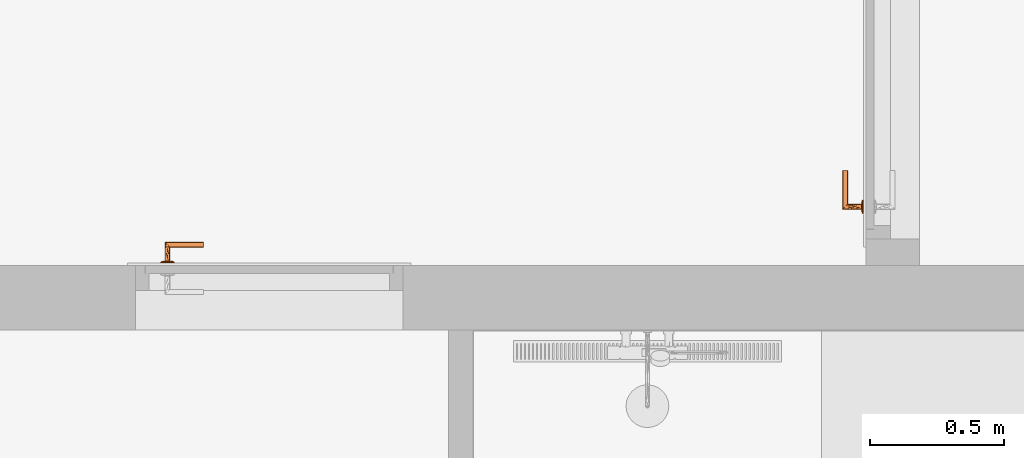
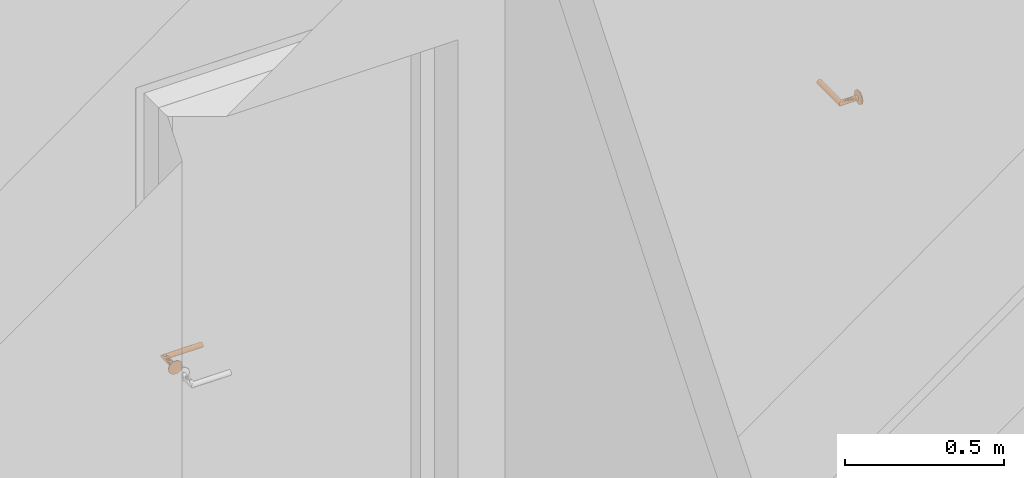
# One storey, part 43 of 68: 2 proxies.
"""IFC2X3 building model written with IfcOpenShell, lengths in millimetres."""

import ifcopenshell
import ifcopenshell.guid

model = None  # the IFC model being written
_history = None  # IfcOwnerHistory: only IFC2X3 demands one
_inside = {}  # id of a spatial element -> (the spatial element, [elements in it])
_under = {}  # id of a project, library or spatial element -> (it, [spatial elements below it])
_declared = {}  # id of a project -> (the project, [libraries it declares])
_typed = {}  # id of a type object -> (the type object, [elements of that type])
_made_of = {}  # id of a material, layer set ... -> (it, [elements and type objects made of it])


def new_model(schema):
    """Start an empty IFC model of exactly this schema.

    Asked for "IFC4X3", IfcOpenShell would pick the latest addendum, in which some entities
    have other attributes; the version numbers below select the first issue.
    IFC2X3 requires an IfcOwnerHistory on every rooted entity: one is made here for all.
    """
    global model, _history
    if schema == "IFC4X3":
        model = ifcopenshell.file(schema_version=(4, 3, 0, 0))
    else:
        model = ifcopenshell.file(schema=schema)
    _inside.clear()
    _under.clear()
    _declared.clear()
    _typed.clear()
    _made_of.clear()
    _history = None
    if model.schema == "IFC2X3":
        org = make("IfcOrganization", Name="unknown")
        user = make(
            "IfcPersonAndOrganization",
            ThePerson=make("IfcPerson", FamilyName="unknown"),
            TheOrganization=org,
        )
        app = make(
            "IfcApplication",
            ApplicationDeveloper=org,
            Version="unknown",
            ApplicationFullName="unknown",
            ApplicationIdentifier="unknown",
        )
        _history = make(
            "IfcOwnerHistory",
            OwningUser=user,
            OwningApplication=app,
            ChangeAction="ADDED",
            CreationDate=0,
        )
    return model


def make(cls, **values):
    """One entity of the class cls with the attributes given. An attribute that is None is left unset."""
    return model.create_entity(
        cls, **{name: value for name, value in values.items() if value is not None}
    )


def entity(cls, *values):
    """Any entity or typed value of the class cls, its attributes in the order of the schema. None: left unset."""
    e = model.create_entity(cls)
    for i, value in enumerate(values):
        if value is not None:
            e[i] = value
    return e


def rooted(cls, **values):
    """An entity with a GlobalId (a new one), such as an element, a storey or a relation."""
    return make(cls, GlobalId=ifcopenshell.guid.new(), OwnerHistory=_history, **values)


def si_unit(unit_type, name, prefix=None):
    """IfcSIUnit, for example si_unit("LENGTHUNIT", "METRE", prefix="MILLI")."""
    return make("IfcSIUnit", UnitType=unit_type, Prefix=prefix, Name=name)


def converted_unit(unit_type, name, factor, base, dimensions=None, offset=None):
    """IfcConversionBasedUnit, such as the inch: factor (a typed value) times the base unit."""
    return make(
        "IfcConversionBasedUnit"
        if offset is None
        else "IfcConversionBasedUnitWithOffset",
        ConversionOffset=offset,
        Dimensions=None
        if dimensions is None
        else entity("IfcDimensionalExponents", *dimensions),
        UnitType=unit_type,
        Name=name,
        ConversionFactor=make(
            "IfcMeasureWithUnit", ValueComponent=factor, UnitComponent=base
        ),
    )


def assignment(units):
    """IfcUnitAssignment: the units of a project."""
    return None if units is None else make("IfcUnitAssignment", Units=units)


def point(xyz):
    """IfcCartesianPoint."""
    return None if xyz is None else make("IfcCartesianPoint", Coordinates=xyz)


def direction(xyz):
    """IfcDirection."""
    return None if xyz is None else make("IfcDirection", DirectionRatios=xyz)


def frame(location, z_axis=None, x_axis=None):
    """IfcAxis2Placement3D, a coordinate frame: its origin and axes. An axis left out is left unset."""
    return make(
        "IfcAxis2Placement3D",
        Location=point(location),
        Axis=direction(z_axis),
        RefDirection=direction(x_axis),
    )


def origin():
    """The frame at (0, 0, 0) with its axes left unset."""
    return frame((0.0, 0.0, 0.0))


def place(relative_to, where):
    """IfcLocalPlacement: puts the frame where relative to a parent placement (None: the world)."""
    return make(
        "IfcLocalPlacement", PlacementRelTo=relative_to, RelativePlacement=where
    )


def context(
    kind, dimensions, precision=None, world=None, true_north=None, identifier=None
):
    """IfcGeometricRepresentationContext, for example the 3D "Model" context."""
    return make(
        "IfcGeometricRepresentationContext",
        ContextIdentifier=identifier,
        ContextType=kind,
        CoordinateSpaceDimension=dimensions,
        Precision=precision,
        WorldCoordinateSystem=world,
        TrueNorth=true_north,
    )


def subcontext(parent, identifier, kind, view, scale=None):
    """IfcGeometricRepresentationSubContext, for example "Body" below "Model"."""
    return make(
        "IfcGeometricRepresentationSubContext",
        ContextIdentifier=identifier,
        ContextType=kind,
        ParentContext=parent,
        TargetScale=scale,
        TargetView=view,
    )


def project(units=None, contexts=None):
    """IfcProject with its units and contexts."""
    return rooted(
        "IfcProject",
        Name="project",
        RepresentationContexts=contexts,
        UnitsInContext=assignment(units),
    )


def spatial(cls, under=None, at=None, **own):
    """A site, building, storey or space (cls), placed at a placement, below another one or the project."""
    s = rooted(cls, ObjectPlacement=at, **own)
    if under is not None:
        _under.setdefault(under.id(), (under, []))[1].append(s)
    return s


def faces_of(points, faces, orient=None, outer=None):
    """IfcFace entities. A face is a list of loops; a loop is a list of indices into points, from 0.

    orient and outer hold one flag for each loop. By default every Orientation is true, the
    first loop of a face is its IfcFaceOuterBound and the others are IfcFaceBound.
    """
    made = []
    for i, loops in enumerate(faces):
        bounds = []
        for j, loop in enumerate(loops):
            is_outer = j == 0 if outer is None else outer[i][j]
            bounds.append(
                make(
                    "IfcFaceOuterBound" if is_outer else "IfcFaceBound",
                    Bound=make("IfcPolyLoop", Polygon=[points[k] for k in loop]),
                    Orientation=True if orient is None else orient[i][j],
                )
            )
        made.append(make("IfcFace", Bounds=bounds))
    return made


def faceted_brep(points, faces, orient=None, outer=None, voids=None):
    """IfcFacetedBrep: a solid bounded by flat faces; with voids (closed shells), ...WithVoids."""
    shared = [point(p) for p in points]
    hull = make("IfcClosedShell", CfsFaces=faces_of(shared, faces, orient, outer))
    if voids is None:
        return make("IfcFacetedBrep", Outer=hull)
    return make(
        "IfcFacetedBrepWithVoids",
        Outer=hull,
        Voids=[
            make(cls, CfsFaces=faces_of(shared, fs, o, b)) for cls, fs, o, b in voids
        ],
    )


def shape(context_of_items, identifier, shape_type, items):
    """IfcShapeRepresentation: the items that make up one representation, for example the "Body"."""
    return make(
        "IfcShapeRepresentation",
        ContextOfItems=context_of_items,
        RepresentationIdentifier=identifier,
        RepresentationType=shape_type,
        Items=items,
    )


def source(mapping_origin, context_of_items, identifier, shape_type, items):
    """IfcRepresentationMap: a shape defined once, which mapped items show again and again."""
    return make(
        "IfcRepresentationMap",
        MappingOrigin=mapping_origin,
        MappedRepresentation=shape(context_of_items, identifier, shape_type, items),
    )


def transform(
    local_origin,
    x_axis=None,
    y_axis=None,
    z_axis=None,
    scale=None,
    scale2=None,
    scale3=None,
    uniform=True,
):
    """IfcCartesianTransformationOperator3D, or its non-uniform kind. x_axis, y_axis, z_axis: its Axis1, 2, 3."""
    if uniform:
        return make(
            "IfcCartesianTransformationOperator3D",
            Axis1=direction(x_axis),
            Axis2=direction(y_axis),
            LocalOrigin=point(local_origin),
            Scale=scale,
            Axis3=direction(z_axis),
        )
    return make(
        "IfcCartesianTransformationOperator3DnonUniform",
        Axis1=direction(x_axis),
        Axis2=direction(y_axis),
        LocalOrigin=point(local_origin),
        Scale=scale,
        Axis3=direction(z_axis),
        Scale2=scale2,
        Scale3=scale3,
    )


def mapped(mapping_source, mapping_target):
    """IfcMappedItem: shows the shape of a source again, moved by a transform."""
    return make(
        "IfcMappedItem", MappingSource=mapping_source, MappingTarget=mapping_target
    )


def material(Name=None, Category=None):
    """IfcMaterial."""
    return make("IfcMaterial", Name=Name, Category=Category)


def made_of(thing, what):
    """Note that an element or type object is made of a material, layer set ...; save() writes the relation."""
    if what is not None:
        _made_of.setdefault(what.id(), (what, []))[1].append(thing)
    return thing


def type_object(cls, material=None, **own):
    """A type object (cls), such as IfcWallType, which elements share."""
    return made_of(rooted(cls, **own), material)


def type_shapes(of_type, sources):
    """Give a type object the sources (RepresentationMaps) that its elements show as mapped items."""
    of_type.RepresentationMaps = sources


def element(
    cls,
    number,
    at=None,
    inside=None,
    cuts=None,
    type_object=None,
    material=None,
    context=None,
    identifier="Body",
    shape_type=None,
    held_by="IfcProductDefinitionShape",
    body=None,
    shapes=None,
    **own,
):
    """One element of the class cls, such as IfcWall. Its Tag is "e" and its number.

    at: its placement. inside: the storey or other place that contains it. cuts: it is an
    opening in that element (IfcRelVoidsElement). A single representation is given by context,
    identifier, shape_type and body (its items); several are given by shapes. held_by: the class
    of the entity that holds the representations. save() writes the other relations.
    """
    e = rooted(cls, Tag="e%d" % number, ObjectPlacement=at, **own)
    if body is not None:
        shapes = [shape(context, identifier, shape_type, body)]
    if shapes is not None:
        e.Representation = make(held_by, Representations=shapes)
    if inside is not None:
        _inside.setdefault(inside.id(), (inside, []))[1].append(e)
    if cuts is not None:
        rooted(
            "IfcRelVoidsElement", RelatingBuildingElement=cuts, RelatedOpeningElement=e
        )
    if type_object is not None:
        _typed.setdefault(type_object.id(), (type_object, []))[1].append(e)
    return made_of(e, material)


def aggregate(whole, parts):
    """IfcRelAggregates: a whole, such as a stair, and the parts it consists of."""
    return rooted("IfcRelAggregates", RelatingObject=whole, RelatedObjects=parts)


def save(model, path):
    """Write the relations noted so far, then the file.

    IfcRelAggregates (storeys below a building ...), IfcRelContainedInSpatialStructure (elements
    in a storey), IfcRelDefinesByType, IfcRelAssociatesMaterial and IfcRelDeclares: one each for
    every whole, place, type object, material and project.
    """
    for whole, parts in _under.values():
        aggregate(whole, parts)
    for where, things in _inside.values():
        rooted(
            "IfcRelContainedInSpatialStructure",
            RelatedElements=things,
            RelatingStructure=where,
        )
    for kind, things in _typed.values():
        rooted("IfcRelDefinesByType", RelatedObjects=things, RelatingType=kind)
    for what, things in _made_of.values():
        rooted("IfcRelAssociatesMaterial", RelatedObjects=things, RelatingMaterial=what)
    for by, libraries in _declared.values():
        rooted("IfcRelDeclares", RelatingContext=by, RelatedDefinitions=libraries)
    model.write(path)


model = new_model("IFC2X3")

# Units and contexts
model_context = context("Model", 3, precision=0.01, world=origin(), true_north=direction((6.123233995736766e-17, 1.0)))
plan_context = context("Plan", 3, precision=0.01, world=origin(), true_north=direction((6.123233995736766e-17, 1.0)))
body_context = subcontext(model_context, "Body", "Model", "MODEL_VIEW")
ifc_project = project(units=[si_unit("LENGTHUNIT", "METRE", prefix="MILLI"), converted_unit("PLANEANGLEUNIT", "DEGREE", entity("IfcPlaneAngleMeasure", 0.017453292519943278), si_unit("PLANEANGLEUNIT", "RADIAN"), dimensions=[0, 0, 0, 0, 0, 0, 0]), si_unit("AREAUNIT", "SQUARE_METRE")], contexts=[model_context, plan_context])

# Site, building, storey, space
site_placement = place(None, origin())
site = spatial("IfcSite", under=ifc_project, at=site_placement, Name="Default", CompositionType="ELEMENT")
building_placement = place(site_placement, origin())
building = spatial("IfcBuilding", under=site, at=building_placement, CompositionType="ELEMENT")
storey_placement = place(building_placement, frame((0.0, 0.0, 6295.0)))
storey = spatial("IfcBuildingStorey", under=building, at=storey_placement, Name="3K", CompositionType="ELEMENT", Elevation=6294.999999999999)
space_placement = place(storey_placement, origin())
space = spatial("IfcSpace", under=storey, at=space_placement, Name="3-0.3", CompositionType="ELEMENT", InteriorOrExteriorSpace="INTERNAL")

# Proxies
ifc_material = material(Name="<Unnamed>")
building_element_proxy_type = type_object("IfcBuildingElementProxyType", Name="Door-handle_Lever_ABLOY_INOXI_3-19ss-002_RT:Default", PredefinedType="NOTDEFINED", material=ifc_material)
shared_shape = source(origin(), body_context, "Body", "Brep", [
    faceted_brep([(0.0, 0.0, 0.0), (21.034441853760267, -15.282416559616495, 0.0), (14.534441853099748, -20.00494299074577, 0.0), (8.034441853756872, -24.72746942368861, 0.0), (0.0, -24.72746942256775, 0.0), (23.51722092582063, -7.6412082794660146, 0.0), (26.0, 0.0, 0.0), (-8.034441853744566, -24.727469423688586, 0.0), (-14.534441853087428, -20.00494299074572, 0.0), (-21.03444185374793, -15.282416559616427, 0.0), (-23.517220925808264, -7.641208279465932, 0.0), (-26.0, 0.0, 0.0), (-23.517220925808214, 7.641208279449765, 0.0), (23.517220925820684, 7.641208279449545, 0.0), (21.034441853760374, 15.282416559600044, 0.0), (14.53444185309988, 20.00494299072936, 0.0), (8.034441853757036, 24.72746942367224, 0.0), (-21.034441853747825, 15.282416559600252, 0.0), (-14.53444185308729, 20.004942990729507, 0.0), (-8.0344418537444, 24.72746942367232, 0.0), (0.0, 24.72746942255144, 0.0), (0.0, 0.0, 8.0), (4.7500000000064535, -8.227241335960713, 8.0), (5.937500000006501, -6.170431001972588, 8.0), (7.125000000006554, -4.113620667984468, 8.0), (8.312500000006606, -2.0568103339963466, 8.0), (9.500000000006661, 0.0, 8.0), (8.312500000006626, 2.056810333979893, 8.0), (2.3750000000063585, -8.227241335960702, 8.0), (0.0, -8.227241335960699, 8.0), (-2.3749999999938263, -8.227241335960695, 8.0), (-4.749999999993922, -8.227241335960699, 8.0), (-5.937499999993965, -6.170431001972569, 8.0), (-7.124999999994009, -4.113620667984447, 8.0), (-8.312499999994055, -2.056810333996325, 8.0), (-9.499999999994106, 0.0, 8.0), (7.125000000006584, 4.113620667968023, 8.0), (5.937500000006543, 6.170431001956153, 8.0), (4.750000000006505, 8.227241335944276, 8.0), (2.3750000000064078, 8.22724133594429, 8.0), (-8.31249999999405, 2.0568103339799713, 8.0), (-7.12499999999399, 4.113620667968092, 8.0), (-5.9374999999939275, 6.170431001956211, 8.0), (-4.74999999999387, 8.227241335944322, 8.0), (0.0, 8.227241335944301, 8.0), (-2.374999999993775, 8.227241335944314, 8.0), (-22.488765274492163, -10.806469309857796, 4.030771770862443), (-16.663919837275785, -7.932665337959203, 6.877259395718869), (-20.643071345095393, -6.292822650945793, 5.929480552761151), (-12.50457926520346, -5.179566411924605, 7.774932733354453), (-16.764060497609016, -3.820257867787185, 7.1747985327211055), (-9.071726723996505, -10.311606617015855, 7.7520782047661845), (-11.963426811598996, -8.625290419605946, 7.618343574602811), (-11.979136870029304, -13.678312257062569, 6.945778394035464), (5.7585542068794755, -20.96753300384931, 5.871476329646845), (0.0, -24.72746942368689, 4.030771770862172), (8.03444185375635, -24.727469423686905, 4.030771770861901), (16.66391982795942, -7.932665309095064, 6.877259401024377), (22.488765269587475, -10.806469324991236, 4.03077177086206), (20.64307133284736, -6.29282258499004, 5.929480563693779), (14.534441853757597, -20.004942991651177, 4.030771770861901), (9.499431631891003, -18.64368355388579, 6.154325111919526), (-15.783149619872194, -11.991003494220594, 6.50080018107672), (-21.034441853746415, -15.282416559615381, 4.030771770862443), (-14.53444185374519, -20.00494299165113, 4.030771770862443), (-23.012042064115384, 0.0, 5.135401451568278), (-23.943088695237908, -6.330522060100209, 4.030771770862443), (11.96342678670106, -8.62529049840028, 7.618343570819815), (12.504579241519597, -5.179566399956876, 7.774932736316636), (16.764060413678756, -3.8202578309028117, 7.17479855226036), (15.783149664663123, -11.991003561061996, 6.50080015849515), (17.985351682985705, 0.0, 6.993737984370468), (23.012042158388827, 0.0, 5.135401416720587), (8.661516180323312, -10.478936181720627, 7.768126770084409), (-8.03444185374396, -24.727469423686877, 4.030771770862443), (-3.3573143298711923, -21.197247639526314, 5.971427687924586), (-9.941915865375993, -17.061976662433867, 6.522757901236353), (-5.973257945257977, -16.430139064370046, 7.110979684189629), (-7.711266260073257, -12.760344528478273, 7.594456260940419), (11.979136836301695, -13.678312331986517, 6.945778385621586), (7.511307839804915, -13.358932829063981, 7.529187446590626), (5.953298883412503, -16.50608604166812, 7.096344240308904), (-1.5654593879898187, -15.307443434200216, 7.519134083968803), (-7.784980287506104, -20.476295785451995, 5.812837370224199), (2.8135289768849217, -17.76392260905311, 6.993737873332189), (-17.98535168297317, 0.0, 6.993737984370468), (-26.0, 0.0, 4.030771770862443), (-23.51722092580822, -7.641208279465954, 4.030771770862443), (23.943088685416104, -6.33052209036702, 4.030771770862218), (24.308823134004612, -5.204907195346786, 4.030771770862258), (26.0, 0.0, 4.030771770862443), (21.03444185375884, -15.282416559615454, 4.030771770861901), (22.617646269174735, -10.40981439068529, 4.030771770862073), (22.488765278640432, 10.806469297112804, 4.030771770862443), (16.66391984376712, 7.932665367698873, 6.877259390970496), (20.643071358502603, 6.292822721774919, 5.929480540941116), (12.504579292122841, 5.179566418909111, 7.774932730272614), (16.764060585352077, 3.8202579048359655, 7.174798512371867), (9.07172672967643, 10.31160659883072, 7.752078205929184), (11.963426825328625, 8.62529034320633, 7.618343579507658), (11.979136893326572, 13.67831220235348, 6.9457784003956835), (-5.758554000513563, 20.96753314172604, 5.8714763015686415), (0.0, 24.72746942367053, 4.030771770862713), (-8.03444185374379, 24.72746942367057, 4.030771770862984), (-16.663919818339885, 7.932665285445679, 6.877259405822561), (-22.48876526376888, 10.806469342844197, 4.030771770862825), (-20.643071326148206, 6.2928225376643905, 5.929480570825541), (-14.534441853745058, 20.004942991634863, 4.030771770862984), (-9.499431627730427, 18.643683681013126, 6.154325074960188), (15.783149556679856, 11.991003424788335, 6.5008002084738), (21.03444185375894, 15.282416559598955, 4.030771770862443), (14.534441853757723, 20.004942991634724, 4.030771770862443), (23.943088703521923, 6.330522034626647, 4.030771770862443), (-11.96342675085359, 8.625290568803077, 7.618343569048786), (-12.504579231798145, 5.179566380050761, 7.77493273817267), (-16.764060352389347, 3.820257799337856, 7.174798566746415), (-15.78314967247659, 11.991003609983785, 6.500800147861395), (-8.661516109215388, 10.478936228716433, 7.768126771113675), (8.034441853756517, 24.727469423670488, 4.030771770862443), (3.3573144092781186, 21.197247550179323, 5.971427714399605), (9.941915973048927, 17.061976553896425, 6.522757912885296), (5.9732581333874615, 16.430139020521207, 7.110979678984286), (7.711266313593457, 12.760344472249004, 7.5944562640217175), (-11.979136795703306, 13.678312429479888, 6.945778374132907), (-7.511307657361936, 13.358932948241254, 7.5291874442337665), (-5.9532988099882, 16.50608628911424, 7.096344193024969), (1.5654596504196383, 15.3074431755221, 7.519134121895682), (7.784980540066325, 20.476295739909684, 5.812837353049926), (-2.81352881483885, 17.76392263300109, 6.993737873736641), (23.51722092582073, 7.6412082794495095, 4.030771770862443), (-23.94308867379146, 6.330522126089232, 4.030771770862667), (-24.308823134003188, 5.20490719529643, 4.030771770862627), (-21.034441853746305, 15.282416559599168, 4.030771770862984), (-22.617646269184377, 10.409814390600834, 4.0307717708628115)], [[[0, 1, 2]], [[0, 2, 3]], [[0, 3, 4]], [[0, 5, 1]], [[0, 6, 5]], [[0, 4, 7]], [[0, 7, 8]], [[0, 8, 9]], [[0, 9, 10]], [[0, 10, 11]], [[0, 11, 12]], [[0, 13, 6]], [[0, 14, 13]], [[0, 15, 14]], [[0, 16, 15]], [[0, 12, 17]], [[0, 17, 18]], [[0, 18, 19]], [[0, 19, 20]], [[0, 20, 16]], [[21, 22, 23]], [[21, 23, 24]], [[21, 24, 25]], [[21, 25, 26]], [[21, 26, 27]], [[21, 28, 22]], [[21, 29, 28]], [[21, 30, 29]], [[21, 31, 30]], [[21, 32, 31]], [[21, 33, 32]], [[21, 34, 33]], [[21, 35, 34]], [[21, 27, 36]], [[21, 36, 37]], [[21, 37, 38]], [[21, 38, 39]], [[21, 40, 35]], [[21, 41, 40]], [[21, 42, 41]], [[21, 43, 42]], [[21, 39, 44]], [[21, 44, 45]], [[21, 45, 43]], [[46, 47, 48]], [[47, 49, 50]], [[49, 33, 34]], [[51, 52, 53]], [[49, 52, 33]], [[48, 47, 50]], [[54, 55, 56]], [[57, 58, 59]], [[56, 60, 61]], [[62, 63, 64]], [[65, 66, 48]], [[67, 57, 68]], [[68, 69, 25]], [[57, 67, 70]], [[69, 26, 25]], [[62, 53, 52]], [[71, 69, 72]], [[67, 23, 73]], [[74, 55, 75]], [[76, 77, 78]], [[79, 60, 70]], [[69, 59, 72]], [[80, 81, 61]], [[77, 30, 78]], [[82, 30, 77]], [[28, 80, 22]], [[77, 83, 75]], [[75, 82, 77]], [[55, 84, 75]], [[85, 50, 35]], [[24, 68, 25]], [[82, 84, 29]], [[84, 82, 75]], [[31, 78, 30]], [[82, 29, 30]], [[34, 35, 50]], [[52, 49, 47]], [[62, 52, 47]], [[34, 50, 49]], [[53, 78, 51]], [[32, 33, 52]], [[85, 65, 50]], [[66, 65, 86]], [[67, 68, 24]], [[77, 76, 83]], [[65, 48, 50]], [[63, 62, 46]], [[48, 66, 87, 46]], [[62, 47, 46]], [[69, 68, 57]], [[80, 73, 22]], [[70, 67, 79]], [[67, 24, 23]], [[72, 88, 89, 90]], [[69, 71, 26]], [[59, 69, 57]], [[61, 60, 79]], [[62, 64, 53]], [[91, 58, 70]], [[72, 59, 88]], [[57, 70, 58]], [[59, 58, 92]], [[80, 61, 79]], [[91, 70, 60]], [[61, 81, 54]], [[73, 80, 79]], [[28, 84, 81]], [[67, 73, 79]], [[29, 84, 28]], [[22, 73, 23]], [[51, 31, 32]], [[76, 78, 53]], [[53, 64, 76]], [[83, 64, 74]], [[64, 83, 76]], [[75, 83, 74]], [[31, 51, 78]], [[52, 51, 32]], [[28, 81, 80]], [[54, 81, 84]], [[55, 54, 84]], [[61, 54, 56]], [[93, 94, 95]], [[94, 96, 97]], [[96, 36, 27]], [[98, 99, 100]], [[96, 99, 36]], [[95, 94, 97]], [[101, 102, 103]], [[104, 105, 106]], [[103, 107, 108]], [[109, 110, 111]], [[72, 112, 95]], [[113, 104, 114]], [[114, 115, 40]], [[104, 113, 116]], [[115, 35, 40]], [[109, 100, 99]], [[85, 115, 65]], [[113, 42, 117]], [[118, 102, 119]], [[120, 121, 122]], [[123, 107, 116]], [[115, 106, 65]], [[124, 125, 108]], [[121, 39, 122]], [[126, 39, 121]], [[45, 124, 43]], [[121, 127, 119]], [[119, 126, 121]], [[102, 128, 119]], [[71, 97, 26]], [[41, 114, 40]], [[126, 128, 44]], [[128, 126, 119]], [[38, 122, 39]], [[126, 44, 39]], [[27, 26, 97]], [[99, 96, 94]], [[109, 99, 94]], [[27, 97, 96]], [[100, 122, 98]], [[37, 36, 99]], [[71, 72, 97]], [[112, 72, 90]], [[113, 114, 41]], [[121, 120, 127]], [[72, 95, 97]], [[110, 109, 93]], [[95, 112, 129, 93]], [[109, 94, 93]], [[115, 114, 104]], [[124, 117, 43]], [[116, 113, 123]], [[113, 41, 42]], [[65, 130, 131, 86]], [[115, 85, 35]], [[106, 115, 104]], [[108, 107, 123]], [[109, 111, 100]], [[132, 105, 116]], [[65, 106, 130]], [[104, 116, 105]], [[106, 105, 133]], [[124, 108, 123]], [[132, 116, 107]], [[108, 125, 101]], [[117, 124, 123]], [[45, 128, 125]], [[113, 117, 123]], [[44, 128, 45]], [[43, 117, 42]], [[98, 38, 37]], [[120, 122, 100]], [[100, 111, 120]], [[127, 111, 118]], [[111, 127, 120]], [[119, 127, 118]], [[38, 98, 122]], [[99, 98, 37]], [[45, 125, 124]], [[101, 125, 128]], [[102, 101, 128]], [[108, 101, 103]], [[7, 74, 64, 63, 9, 8]], [[10, 9, 63, 46, 87, 66, 86, 11]], [[6, 90, 89, 88, 92, 1, 5]], [[1, 58, 91]], [[74, 7, 4, 3, 56, 55]], [[60, 56, 3, 2, 1, 91]], [[1, 92, 58]], [[14, 110, 93, 129, 112, 90, 6, 13]], [[111, 110, 14, 15, 16, 118]], [[11, 86, 131, 130, 133, 17, 12]], [[17, 105, 132]], [[118, 16, 20, 19, 103, 102]], [[107, 103, 19, 18, 17, 132]], [[17, 133, 105]], [[59, 92, 88]], [[106, 133, 130]]]),
    faceted_brep([(4.7499999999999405, -8.22724133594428, 8.0), (2.4587809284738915, -9.176295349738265, 8.0), (0.0, -9.499999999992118, 8.0), (-2.4587809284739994, -9.176295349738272, 8.0), (-4.7500000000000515, -8.227241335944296, 8.0), (-6.717514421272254, -6.717514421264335, 8.0), (-8.227241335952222, -4.74999999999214, 8.0), (-9.176295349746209, -2.4587809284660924, 8.0), (-9.500000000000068, 0.0, 8.0), (-9.176295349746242, 2.458780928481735, 8.0), (-8.227241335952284, 4.750000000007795, 8.0), (-6.717514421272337, 6.717514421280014, 8.0), (-4.750000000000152, 8.227241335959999, 8.0), (-2.4587809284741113, 9.176295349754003, 8.0), (0.0, 9.500000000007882, 8.0), (2.4587809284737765, 9.176295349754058, 8.0), (4.7499999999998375, 8.227241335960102, 8.0), (6.717514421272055, 6.717514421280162, 8.0), (8.22724133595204, 4.75000000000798, 8.0), (9.17629534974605, 2.458780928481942, 8.0), (9.499999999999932, 0.0, 8.0), (9.17629534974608, -2.458780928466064, 8.0), (8.227241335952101, -4.749999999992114, 8.0), (6.717514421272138, -6.7175144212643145, 8.0), (-8.227241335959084, 4.7499999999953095, 59.772758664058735), (-6.717514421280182, 6.7175144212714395, 61.282485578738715), (-9.176295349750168, 2.458780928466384, 58.82370465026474), (-4.750000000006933, 8.227241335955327, 63.25000000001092), (-2.4587809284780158, 9.176295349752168, 65.54121907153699), (-9.500000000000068, 0.0, 58.50000000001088), (0.0, 9.50000000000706, 68.0), (4.750000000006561, 8.227241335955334, 72.75000000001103), (2.4587809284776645, 9.17629534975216, 70.45878092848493), (6.717514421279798, 6.7175144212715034, 74.71751442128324), (8.22724133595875, 4.749999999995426, 76.22724133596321), (9.17629534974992, 2.458780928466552, 77.17629534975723), (9.499999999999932, 0.0, 77.50000000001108), (9.176295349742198, -2.4587809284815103, 77.1762953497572), (8.227241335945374, -4.750000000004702, 76.22724133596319), (6.7175144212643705, -6.717514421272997, 74.7175144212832), (4.749999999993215, -8.227241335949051, 72.75000000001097), (2.4587809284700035, -9.17629534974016, 70.45878092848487), (0.0, -9.49999999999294, 68.0), (-2.4587809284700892, -9.176295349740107, 65.54121907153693), (-4.749999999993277, -8.227241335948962, 63.250000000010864), (-6.717514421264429, -6.717514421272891, 61.282485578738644), (-9.176295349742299, -2.458780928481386, 58.8237046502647), (-8.227241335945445, -4.750000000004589, 59.77275866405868), (-135.0, -9.176295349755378, 70.4587809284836), (-135.0, -8.227241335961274, 72.75000000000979), (-135.0, -6.717514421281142, 74.71751442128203), (-135.0, -4.750000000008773, 76.22724133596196), (-135.0, -2.4587809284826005, 77.17629534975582), (-135.0, 0.0, 77.5000000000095), (-135.0, 2.4587809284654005, 77.17629534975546), (-135.0, 4.749999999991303, 76.22724133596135), (-135.0, 6.717514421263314, 74.71751442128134), (-135.0, 8.227241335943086, 72.75000000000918), (-135.0, 9.17629534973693, 70.45878092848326), (-135.0, 9.499999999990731, 68.0), (-135.0, 9.17629534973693, 65.54121907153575), (-135.0, 8.227241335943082, 63.250000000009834), (-135.0, 6.717514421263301, 61.28248557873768), (-135.0, 4.749999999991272, 59.772758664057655), (-135.0, 2.458780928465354, 58.823704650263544), (-135.0, 0.0, 58.50000000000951), (-135.0, -2.458780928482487, 58.82370465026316), (-135.0, -4.750000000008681, 59.772758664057), (-135.0, -6.7175144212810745, 61.28248557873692), (-135.0, -8.227241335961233, 63.25000000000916), (-135.0, -9.176295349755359, 65.54121907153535), (-135.0, -9.500000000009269, 68.0)], [[[0, 1, 2, 3, 4, 5, 6, 7, 8, 9, 10, 11, 12, 13, 14, 15, 16, 17, 18, 19, 20, 21, 22, 23]], [[24, 25, 11, 10]], [[26, 24, 10, 9]], [[14, 27, 28]], [[13, 27, 14]], [[25, 27, 13]], [[29, 26, 9, 8]], [[12, 11, 25]], [[25, 13, 12]], [[28, 30, 15]], [[31, 17, 32]], [[33, 18, 31]], [[19, 34, 35]], [[33, 34, 19]], [[20, 19, 35, 36]], [[16, 15, 30]], [[14, 28, 15]], [[19, 18, 33]], [[17, 31, 18]], [[17, 16, 32]], [[30, 32, 16]], [[20, 36, 37, 21]], [[38, 21, 37]], [[22, 39, 40]], [[38, 39, 21]], [[23, 40, 41]], [[39, 22, 21]], [[1, 42, 43]], [[42, 1, 0]], [[23, 41, 0]], [[23, 22, 40]], [[41, 42, 0]], [[44, 45, 3]], [[43, 44, 2]], [[46, 29, 8, 7]], [[47, 46, 7, 6]], [[45, 47, 6, 5]], [[45, 4, 3]], [[3, 2, 44]], [[5, 4, 45]], [[43, 2, 1]], [[48, 49, 50, 51, 52, 53, 54, 55, 56, 57, 58, 59, 60, 61, 62, 63, 64, 65, 66, 67, 68, 69, 70, 71]], [[64, 63, 24, 26]], [[65, 64, 26, 29]], [[61, 60, 28, 27]], [[62, 61, 27, 25]], [[63, 62, 25, 24]], [[59, 30, 28, 60]], [[57, 56, 33, 31]], [[58, 57, 31, 32]], [[54, 53, 36, 35]], [[55, 54, 35, 34]], [[56, 55, 34, 33]], [[32, 30, 59, 58]], [[52, 51, 38, 37]], [[53, 52, 37, 36]], [[49, 48, 41, 40]], [[50, 49, 40, 39]], [[51, 50, 39, 38]], [[42, 41, 48, 71]], [[69, 68, 45, 44]], [[70, 69, 44, 43]], [[66, 65, 29, 46]], [[67, 66, 46, 47]], [[68, 67, 47, 45]], [[42, 71, 70, 43]]]),
])
type_shapes(building_element_proxy_type, [shared_shape])
for number, where, z_axis, x_axis, name in (
    (1, (9940.0, 6864.999979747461, 1000.0), (-1.0, 0.0, 0.0), (0.0, -1.0, 0.0), "Door-handle_Lever_ABLOY_INOXI_3-19ss-002_RT:Default"),
    (2, (7340.0, 6654.999959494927, 1000.0), (0.0, 1.0, 0.0), (-1.0, 0.0, 0.0), "Door-handle_Lever_ABLOY_INOXI_3-19ss-002_RT:Default"),
):
    element("IfcBuildingElementProxy", number, at=place(space_placement, frame(where, z_axis=z_axis, x_axis=x_axis)), inside=space, type_object=building_element_proxy_type, material=ifc_material, Name=name, ObjectType="Door-handle_Lever_ABLOY_INOXI_3-19ss-002_RT:Default", context=body_context, shape_type="MappedRepresentation", body=[
        mapped(shared_shape, transform((0.0, 0.0, 0.0), scale=1.0)),
    ])

save(model, "model.ifc")
